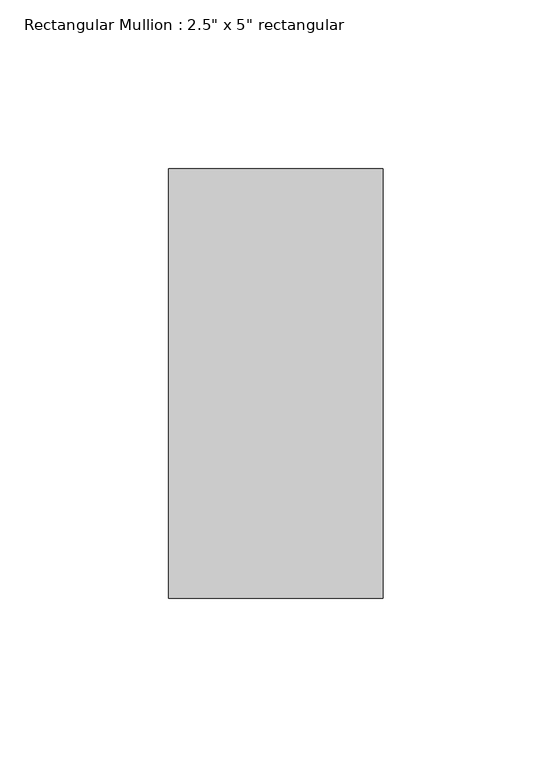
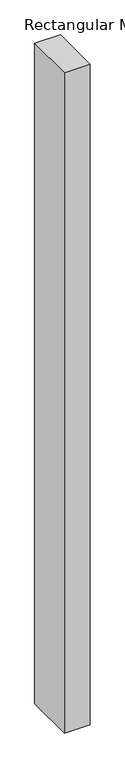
"""IFC4 building model written with IfcOpenShell, lengths in millimetres: member geometry."""

from ifc_helpers import new_model, si_unit, frame, origin, place, context, project, spatial, polyline, outline, extrude, source, transform, mapped, element, save


def member_d77fa9c2(model_context):
    return source(origin(), model_context, "Body", "SweptSolid", [
        extrude(outline(polyline([(31.75, 63.5), (31.75, -63.5), (-31.75, -63.5), (-31.75, 63.5), (31.75, 63.5)])), frame((0.0, 0.0, -1727.2), z_axis=(0.0, 0.0, 1.0), x_axis=(1.0, 0.0, 0.0)), (0.0, 0.0, 1.0), 1727.2),
    ])


if __name__ == "__main__":
    model = new_model("IFC4")
    model_context = context("Model", 3, world=origin())
    ifc_project = project(units=[si_unit("LENGTHUNIT", "METRE", prefix="MILLI")], contexts=[model_context])
    site = spatial("IfcSite", under=ifc_project)
    building = spatial("IfcBuilding", under=site)
    placement = place(None, origin())
    member_shape = member_d77fa9c2(model_context)
    element("IfcMember", 1, ObjectType="Rectangular Mullion : 2.5\" x 5\" rectangular", at=placement, inside=building, context=model_context, shape_type="MappedRepresentation", body=[
        mapped(member_shape, transform((0.0, 0.0, 0.0), x_axis=(1.0, 0.0, 0.0), y_axis=(0.0, 1.0, 0.0), z_axis=(0.0, 0.0, 1.0))),
    ])
    save(model, "model.ifc")
